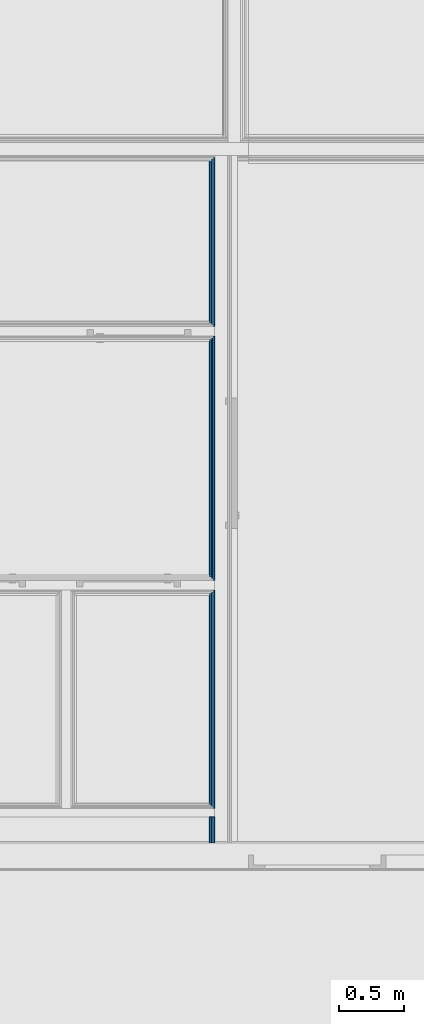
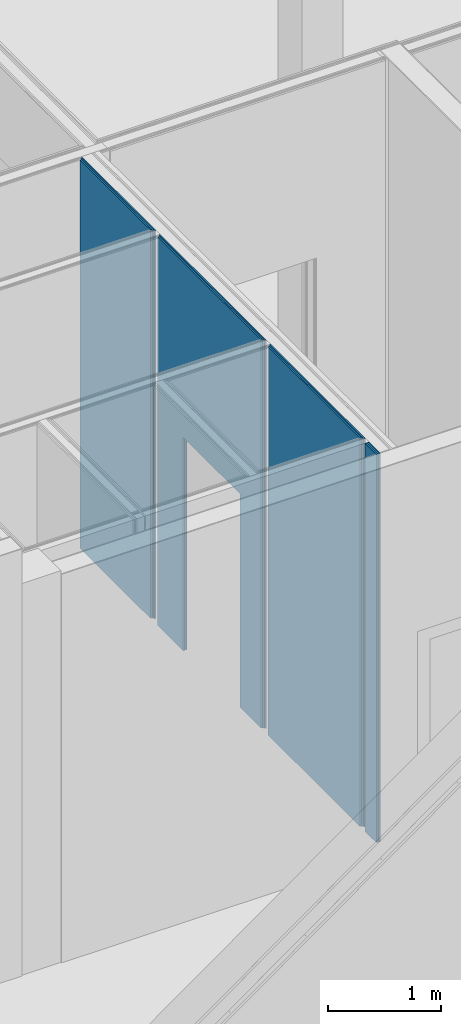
# One storey, part 201 of 260: 3 building element parts, 1 opening, 1 element without a shape of its own.
"""IFC2X3 building model written with IfcOpenShell, lengths in millimetres."""

from ifc_helpers import new_model, entity, si_unit, converted_unit, derived_unit, money_unit, direction, frame, origin_with_axes, place, context, subcontext, project, spatial, faceted_brep, material, type_object, element, aggregate, save


model = new_model("IFC2X3")

# Units and contexts
model_context = context("Model", 3, precision=0.01, world=origin_with_axes(), true_north=direction((0.0, 1.0)))
body_context = subcontext(model_context, "Body", "Model", "MODEL_VIEW")
ifc_project = project(units=[si_unit("LENGTHUNIT", "METRE", prefix="MILLI"), si_unit("AREAUNIT", "SQUARE_METRE"), si_unit("VOLUMEUNIT", "CUBIC_METRE"), converted_unit("PLANEANGLEUNIT", "DEGREE", entity("IfcPlaneAngleMeasure", 0.0174532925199), si_unit("PLANEANGLEUNIT", "RADIAN"), dimensions=[0, 0, 0, 0, 0, 0, 0]), money_unit("EUR"), converted_unit("TIMEUNIT", "Year", entity("IfcTimeMeasure", 31556926.0), si_unit("TIMEUNIT", "SECOND"), dimensions=[0, 0, 1, 0, 0, 0, 0]), si_unit("MASSUNIT", "GRAM", prefix="KILO"), si_unit("THERMODYNAMICTEMPERATUREUNIT", "DEGREE_CELSIUS"), si_unit("LUMINOUSINTENSITYUNIT", "LUMEN"), si_unit("ENERGYUNIT", "JOULE", prefix="MEGA"), derived_unit("THERMALCONDUCTANCEUNIT", [(si_unit("POWERUNIT", "WATT"), 1), (si_unit("LENGTHUNIT", "METRE"), -1), (si_unit("THERMODYNAMICTEMPERATUREUNIT", "KELVIN"), -1)]), derived_unit("SPECIFICHEATCAPACITYUNIT", [(si_unit("ENERGYUNIT", "JOULE"), 1), (si_unit("MASSUNIT", "GRAM", prefix="KILO"), -1), (si_unit("THERMODYNAMICTEMPERATUREUNIT", "KELVIN"), -1)]), derived_unit("MASSDENSITYUNIT", [(si_unit("MASSUNIT", "GRAM", prefix="KILO"), 1), (si_unit("VOLUMEUNIT", "CUBIC_METRE"), -1)])], contexts=[model_context])

# Site, building, storey
site_placement = place(None, origin_with_axes())
site = spatial("IfcSite", under=ifc_project, at=site_placement, Name="Kolde pst 67a", CompositionType="ELEMENT")
building_placement = place(site_placement, origin_with_axes())
building = spatial("IfcBuilding", under=site, at=building_placement, Name="Riigigümnaasium", CompositionType="ELEMENT")
storey_placement = place(building_placement, origin_with_axes())
storey = spatial("IfcBuildingStorey", under=building, at=storey_placement, Name="1. korrus", CompositionType="ELEMENT", Elevation=0.0)

# Wall, opening, building element parts
wall_type = type_object("IfcWallType", Name="SS-PK-10/7_vill100+plaat+värv vineeriga 217", PredefinedType="NOTDEFINED")
wall_placement = place(storey_placement, frame((73479.99953, 10899.9620985, 0.0), z_axis=(0.0, 0.0, 1.0), x_axis=(0.0, 1.0, 0.0)))
wall = element("IfcWall", 1, at=wall_placement, inside=storey, type_object=wall_type, Name="Sisesein")
opening_placement = place(wall_placement, frame((2909.99999996, 0.0, 0.0), z_axis=(0.0, 0.0, 1.0), x_axis=(1.0, 0.0, 0.0)))
element("IfcOpeningElement", 2, at=opening_placement, cuts=wall, Name="Siseuks", context=body_context, shape_type="Brep", body=[
    faceted_brep([(500.0, -434.0, 2300.0), (500.0, -434.0, 0.0), (500.0, 217.0, 0.0), (500.0, 217.0, 2300.0), (-500.0, -434.0, 2300.0), (-500.0, -434.0, 0.0), (-500.0, 217.0, 0.0), (-500.0, 217.0, 2300.0)], [[[0, 1, 2, 3]], [[0, 4, 5, 1]], [[1, 5, 6, 2]], [[3, 2, 6, 7]], [[4, 0, 3, 7]], [[5, 4, 7, 6]]]),
])
ifc_material_1 = material(Name="_VIIMISTLUSKIHT - viimistlus vastavalt SA osale")
building_element_part_1_placement = place(wall_placement, origin_with_axes())
building_element_part_1 = element("IfcBuildingElementPart", 3, at=building_element_part_1_placement, material=ifc_material_1, Name="_VIIMISTLUSKIHT - viimistlus vastavalt SA osale", context=body_context, shape_type="Brep", body=[
    faceted_brep([(198.999842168, 0.0, 4185.0), (0.0, 0.0, 4185.0), (0.0, -15.0, 4185.0), (198.999842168, -15.0, 4185.0), (198.999842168, 0.0, 0.0), (0.0, 0.0, 0.0), (0.0, -15.0, 0.0), (198.999842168, -15.0, 0.0)], [[[0, 1, 2, 3]], [[4, 5, 1, 0]], [[2, 1, 5, 6]], [[3, 2, 6, 7]], [[3, 7, 4, 0]], [[7, 6, 5, 4]]]),
    faceted_brep([(1911.93317675, 0.0, 4185.0), (289.999842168, 0.0, 4185.0), (289.999842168, -15.0, 4185.0), (1911.93317675, -15.0, 4185.0), (1911.93317675, 0.0, 0.0), (289.999842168, 0.0, 0.0), (289.999842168, -15.0, 0.0), (1911.93317675, -15.0, 0.0)], [[[0, 1, 2, 3]], [[4, 5, 1, 0]], [[2, 1, 5, 6]], [[3, 2, 6, 7]], [[3, 7, 4, 0]], [[7, 6, 5, 4]]]),
    faceted_brep([(2409.99999996, -15.0, 0.0), (2409.99999996, -15.0, 2300.0), (3409.99999996, -15.0, 2300.0), (3409.99999996, -15.0, 0.0), (3860.04501881, -15.0, 0.0), (3860.04501881, -15.0, 4185.0), (2036.93317675, -15.0, 4185.0), (2036.93317675, -15.0, 0.0), (2409.99999996, 0.0, 0.0), (2409.99999996, 0.0, 2300.0), (3409.99999996, 0.0, 2300.0), (3409.99999996, 0.0, 0.0), (3860.04502595, 0.0, 0.0), (3860.04502595, 0.0, 4185.0), (2036.93317675, 0.0, 4185.0), (2036.93317675, 0.0, 0.0)], [[[0, 1, 2, 3, 4, 5, 6, 7]], [[1, 0, 8, 9]], [[2, 1, 9, 10]], [[3, 2, 10, 11]], [[3, 11, 12, 4]], [[4, 12, 13, 5]], [[14, 6, 5, 13]], [[14, 15, 7, 6]], [[8, 0, 7, 15]], [[9, 8, 15, 14, 13, 12, 11, 10]]]),
    faceted_brep([(5230.04472889, 0.0, 4185.0), (3985.04502595, 0.0, 4185.0), (3985.04501881, -15.0, 4185.0), (5230.04471795, -15.0, 4185.0), (5230.04472889, 0.0, 0.0), (3985.04502595, 0.0, 0.0), (3985.04501881, -15.0, 0.0), (5230.04471795, -15.0, 0.0)], [[[0, 1, 2, 3]], [[4, 5, 1, 0]], [[2, 1, 5, 6]], [[3, 2, 6, 7]], [[3, 7, 4, 0]], [[7, 6, 5, 4]]]),
])
ifc_material_2 = material(Name="_PLAATMATERJAL - kipsplaat veekindel")
building_element_part_2_placement = place(wall_placement, origin_with_axes())
building_element_part_2 = element("IfcBuildingElementPart", 4, at=building_element_part_2_placement, material=ifc_material_2, Name="_PLAATMATERJAL - kipsplaat veekindel", context=body_context, shape_type="Brep", body=[
    faceted_brep([(198.999842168, -15.0, 4185.0), (0.0, -15.0, 4185.0), (0.0, -27.5, 4185.0), (198.999842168, -27.5, 4185.0), (198.999842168, -15.0, 0.0), (0.0, -15.0, 0.0), (0.0, -27.5, 0.0), (198.999842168, -27.5, 0.0)], [[[0, 1, 2, 3]], [[4, 5, 1, 0]], [[2, 1, 5, 6]], [[3, 2, 6, 7]], [[3, 7, 4, 0]], [[7, 6, 5, 4]]]),
    faceted_brep([(1924.43317675, -15.0, 4185.0), (277.499842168, -15.0, 4185.0), (277.499842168, -27.5, 4185.0), (1924.43317675, -27.5, 4185.0), (1924.43317675, -15.0, 0.0), (277.499842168, -15.0, 0.0), (277.499842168, -27.5, 0.0), (1924.43317675, -27.5, 0.0)], [[[0, 1, 2, 3]], [[4, 5, 1, 0]], [[2, 1, 5, 6]], [[3, 2, 6, 7]], [[3, 7, 4, 0]], [[7, 6, 5, 4]]]),
    faceted_brep([(2409.99999996, -27.5, 0.0), (2409.99999996, -27.5, 2300.0), (3409.99999996, -27.5, 2300.0), (3409.99999996, -27.5, 0.0), (3872.54501285, -27.5, 0.0), (3872.54501285, -27.5, 4185.0), (2024.43317675, -27.5, 4185.0), (2024.43317675, -27.5, 0.0), (2409.99999996, -15.0, 0.0), (2409.99999996, -15.0, 2300.0), (3409.99999996, -15.0, 2300.0), (3409.99999996, -15.0, 0.0), (3872.54501881, -15.0, 0.0), (3872.54501881, -15.0, 4185.0), (2024.43317675, -15.0, 4185.0), (2024.43317675, -15.0, 0.0)], [[[0, 1, 2, 3, 4, 5, 6, 7]], [[1, 0, 8, 9]], [[2, 1, 9, 10]], [[3, 2, 10, 11]], [[3, 11, 12, 4]], [[4, 12, 13, 5]], [[14, 6, 5, 13]], [[14, 15, 7, 6]], [[8, 0, 7, 15]], [[9, 8, 15, 14, 13, 12, 11, 10]]]),
    faceted_brep([(5245.04471795, -15.0, 4185.0), (3972.54501881, -15.0, 4185.0), (3972.54501285, -27.5, 4185.0), (5245.04470884, -27.5, 4185.0), (5245.04471795, -15.0, 0.0), (3972.54501881, -15.0, 0.0), (3972.54501285, -27.5, 0.0), (5245.04470884, -27.5, 0.0)], [[[0, 1, 2, 3]], [[4, 5, 1, 0]], [[2, 1, 5, 6]], [[3, 2, 6, 7]], [[3, 7, 4, 0]], [[7, 6, 5, 4]]]),
])
building_element_part_3_placement = place(wall_placement, origin_with_axes())
building_element_part_3 = element("IfcBuildingElementPart", 5, at=building_element_part_3_placement, material=ifc_material_2, Name="_PLAATMATERJAL - kipsplaat veekindel", context=body_context, shape_type="Brep", body=[
    faceted_brep([(198.999842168, -27.5, 4185.0), (0.0, -27.5, 4185.0), (0.0, -40.0, 4185.0), (198.999842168, -40.0, 4185.0), (198.999842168, -27.5, 0.0), (0.0, -27.5, 0.0), (0.0, -40.0, 0.0), (198.999842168, -40.0, 0.0)], [[[0, 1, 2, 3]], [[4, 5, 1, 0]], [[2, 1, 5, 6]], [[3, 2, 6, 7]], [[3, 7, 4, 0]], [[7, 6, 5, 4]]]),
    faceted_brep([(1936.93317675, -27.5, 4185.0), (264.999842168, -27.5, 4185.0), (264.999842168, -40.0, 4185.0), (1936.93317675, -40.0, 4185.0), (1936.93317675, -27.5, 0.0), (264.999842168, -27.5, 0.0), (264.999842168, -40.0, 0.0), (1936.93317675, -40.0, 0.0)], [[[0, 1, 2, 3]], [[4, 5, 1, 0]], [[2, 1, 5, 6]], [[3, 2, 6, 7]], [[3, 7, 4, 0]], [[7, 6, 5, 4]]]),
    faceted_brep([(2409.99999996, -40.0, 0.0), (2409.99999996, -40.0, 2300.0), (3409.99999996, -40.0, 2300.0), (3409.99999996, -40.0, 0.0), (3885.0450069, -40.0, 0.0), (3885.0450069, -40.0, 4185.0), (2011.93317675, -40.0, 4185.0), (2011.93317675, -40.0, 0.0), (2409.99999996, -27.5, 0.0), (2409.99999996, -27.5, 2300.0), (3409.99999996, -27.5, 2300.0), (3409.99999996, -27.5, 0.0), (3885.04501285, -27.5, 0.0), (3885.04501285, -27.5, 4185.0), (2011.93317675, -27.5, 4185.0), (2011.93317675, -27.5, 0.0)], [[[0, 1, 2, 3, 4, 5, 6, 7]], [[1, 0, 8, 9]], [[2, 1, 9, 10]], [[3, 2, 10, 11]], [[3, 11, 12, 4]], [[4, 12, 13, 5]], [[14, 6, 5, 13]], [[14, 15, 7, 6]], [[8, 0, 7, 15]], [[9, 8, 15, 14, 13, 12, 11, 10]]]),
    faceted_brep([(5257.54470884, -27.5, 4185.0), (3960.04501285, -27.5, 4185.0), (3960.0450069, -40.0, 4185.0), (5257.54469972, -40.0, 4185.0), (5257.54470884, -27.5, 0.0), (3960.04501285, -27.5, 0.0), (3960.0450069, -40.0, 0.0), (5257.54469972, -40.0, 0.0)], [[[0, 1, 2, 3]], [[4, 5, 1, 0]], [[2, 1, 5, 6]], [[3, 2, 6, 7]], [[3, 7, 4, 0]], [[7, 6, 5, 4]]]),
])
aggregate(wall, [building_element_part_1, building_element_part_2, building_element_part_3])

save(model, "model.ifc")
